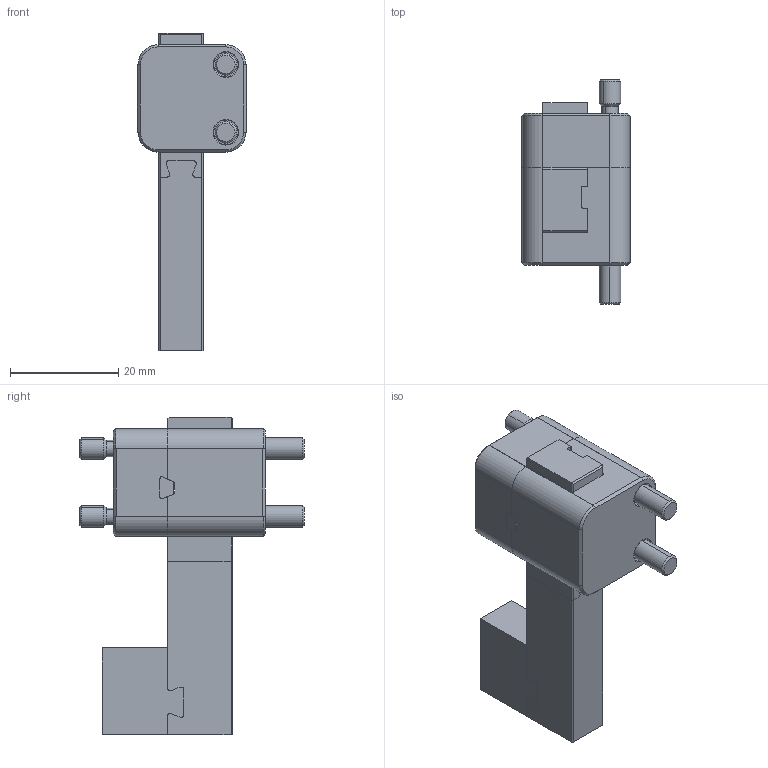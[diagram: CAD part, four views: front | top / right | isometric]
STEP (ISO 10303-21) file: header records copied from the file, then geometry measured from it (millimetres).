
FILE_DESCRIPTION (( 'STEP AP214' ), '1' );
FILE_NAME ('UU081220.STEP', '2014-02-14T07:30:03', ( '' ), ( '' ), 'SwSTEP 2.0', 'SolidWorks 2013', '' );
FILE_SCHEMA (( 'AUTOMOTIVE_DESIGN' ));
Length unit declared in the file: millimetre
Products named in the file (13): 9GU102020-1; 9GU102020; 8UI081216; 7UU083200; UU081220; 7TO-M6x9; 1TOA-M4x16; 7UU081200; 3MUELLE-7TO-M6-1; 1BOLAØ3,5; 8SU082020; 1TOA-M4x25; 9GU102020-2
Assembly tree (14 placements, depth 3):
  UU081220
    8SU082020
    9GU102020
      9GU102020-1
      9GU102020-2
    3MUELLE-7TO-M6-1
    1TOA-M4x16  x2
    1TOA-M4x25  x2
    1BOLAØ3,5
    7TO-M6x9
    7UU081200
    7UU083200
    8UI081216
Bounding box: 20 x 41.4 x 58.5 mm (x, y, z)
Volume: 15867.6 mm3; surface area: 10902.1 mm2
Topology: 13 solids, 13 shells, 438 faces, 1082 edges, 686 vertices
Faces by surface type: plane 199, cylinder 152, cone 65, torus 18, bspline 2, sphere 2
Entity records: 13716 total; most frequent: CARTESIAN_POINT 3477, DIRECTION 2116, ORIENTED_EDGE 1950, EDGE_CURVE 975, AXIS2_PLACEMENT_3D 758, VERTEX_POINT 623, LINE 600, VECTOR 600
